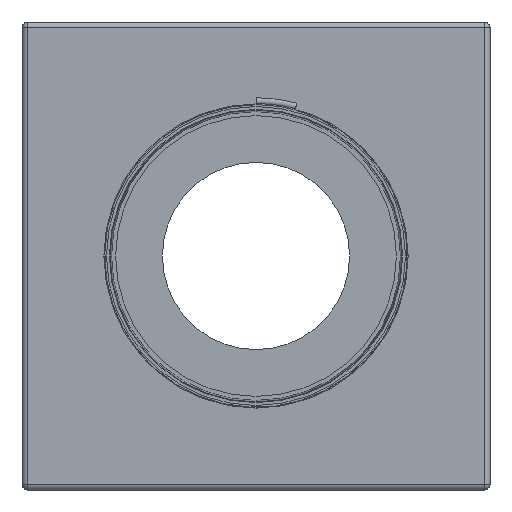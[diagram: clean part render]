
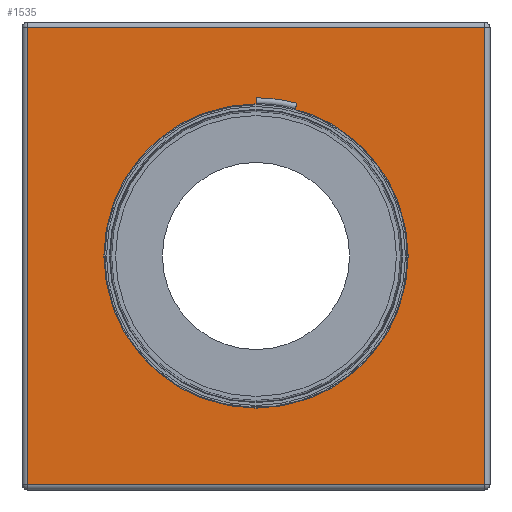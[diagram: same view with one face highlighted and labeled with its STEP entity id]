
A CAD part, front view. The second image highlights one B-rep face of the part: STEP entity #1535.
In plain terms, the highlighted planar face has unit normal (0, -1, 0).
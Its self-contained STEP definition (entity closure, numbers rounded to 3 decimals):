
#81=FACE_BOUND('',#369,.T.);
#140=PLANE('',#1725);
#223=FACE_OUTER_BOUND('',#368,.T.);
#368=EDGE_LOOP('',(#1221,#1222,#1223,#1224));
#369=EDGE_LOOP('',(#1225));
#490=LINE('',#2526,#554);
#494=LINE('',#2546,#558);
#496=LINE('',#2549,#560);
#502=LINE('',#2558,#566);
#554=VECTOR('',#2055,10.);
#558=VECTOR('',#2079,10.);
#560=VECTOR('',#2083,10.);
#566=VECTOR('',#2095,10.);
#656=CIRCLE('',#1726,260.);
#755=VERTEX_POINT('',#2483);
#764=VERTEX_POINT('',#2507);
#767=VERTEX_POINT('',#2517);
#773=VERTEX_POINT('',#2537);
#775=VERTEX_POINT('',#2569);
#918=EDGE_CURVE('',#755,#767,#490,.T.);
#928=EDGE_CURVE('',#767,#773,#494,.T.);
#930=EDGE_CURVE('',#773,#764,#496,.T.);
#936=EDGE_CURVE('',#764,#755,#502,.T.);
#942=EDGE_CURVE('',#775,#775,#656,.T.);
#1221=ORIENTED_EDGE('',*,*,#918,.F.);
#1222=ORIENTED_EDGE('',*,*,#936,.F.);
#1223=ORIENTED_EDGE('',*,*,#930,.F.);
#1224=ORIENTED_EDGE('',*,*,#928,.F.);
#1225=ORIENTED_EDGE('',*,*,#942,.T.);
#1535=ADVANCED_FACE('',(#223,#81),#140,.T.);
#1725=AXIS2_PLACEMENT_3D('',#2568,#2109,#2110);
#1726=AXIS2_PLACEMENT_3D('',#2570,#2111,#2112);
#2055=DIRECTION('',(0.,0.,1.));
#2079=DIRECTION('',(1.,0.,0.));
#2083=DIRECTION('',(0.,0.,-1.));
#2095=DIRECTION('',(-1.,0.,0.));
#2109=DIRECTION('center_axis',(0.,-1.,0.));
#2110=DIRECTION('ref_axis',(0.,0.,-1.));
#2111=DIRECTION('center_axis',(0.,1.,0.));
#2112=DIRECTION('ref_axis',(0.,0.,1.));
#2483=CARTESIAN_POINT('',(-390.,-400.,-390.));
#2507=CARTESIAN_POINT('',(390.,-400.,-390.));
#2517=CARTESIAN_POINT('',(-390.,-400.,390.));
#2526=CARTESIAN_POINT('',(-390.,-400.,-200.));
#2537=CARTESIAN_POINT('',(390.,-400.,390.));
#2546=CARTESIAN_POINT('',(-200.,-400.,390.));
#2549=CARTESIAN_POINT('',(390.,-400.,200.));
#2558=CARTESIAN_POINT('',(200.,-400.,-390.));
#2568=CARTESIAN_POINT('Origin',(0.,-400.,0.));
#2569=CARTESIAN_POINT('',(0.,-400.,260.));
#2570=CARTESIAN_POINT('Origin',(0.,-400.,0.));
